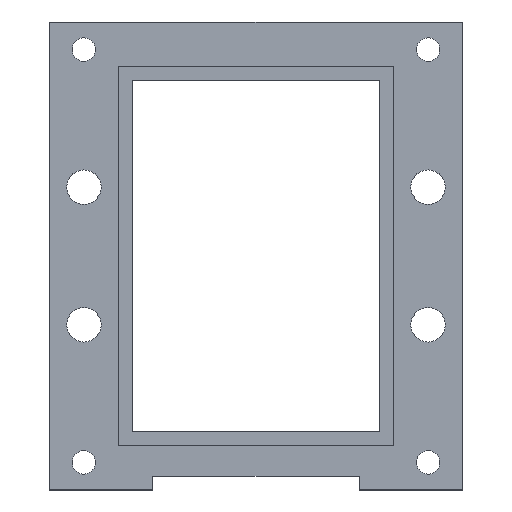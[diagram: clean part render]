
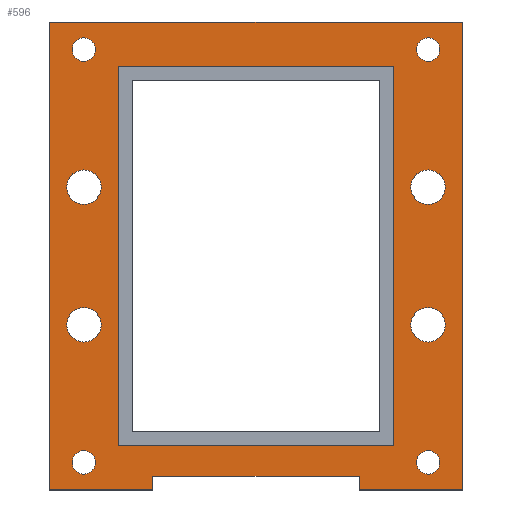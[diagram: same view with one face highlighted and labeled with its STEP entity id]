
A CAD part, top view. The second image highlights one B-rep face of the part: STEP entity #596.
In plain terms, the highlighted planar face has unit normal (0, 0, 1).
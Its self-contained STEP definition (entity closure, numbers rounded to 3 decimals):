
#24=FACE_BOUND('',#116,.T.);
#25=FACE_BOUND('',#117,.T.);
#26=FACE_BOUND('',#118,.T.);
#27=FACE_BOUND('',#119,.T.);
#28=FACE_BOUND('',#120,.T.);
#29=FACE_BOUND('',#121,.T.);
#30=FACE_BOUND('',#122,.T.);
#31=FACE_BOUND('',#123,.T.);
#32=FACE_BOUND('',#124,.T.);
#40=PLANE('',#670);
#75=FACE_OUTER_BOUND('',#115,.T.);
#115=EDGE_LOOP('',(#498,#499,#500,#501,#502,#503,#504,#505));
#116=EDGE_LOOP('',(#506));
#117=EDGE_LOOP('',(#507));
#118=EDGE_LOOP('',(#508));
#119=EDGE_LOOP('',(#509));
#120=EDGE_LOOP('',(#510));
#121=EDGE_LOOP('',(#511));
#122=EDGE_LOOP('',(#512));
#123=EDGE_LOOP('',(#513));
#124=EDGE_LOOP('',(#514,#515,#516,#517));
#152=LINE('',#919,#212);
#173=LINE('',#961,#233);
#174=LINE('',#963,#234);
#175=LINE('',#965,#235);
#176=LINE('',#967,#236);
#177=LINE('',#969,#237);
#178=LINE('',#971,#238);
#179=LINE('',#972,#239);
#180=LINE('',#975,#240);
#181=LINE('',#977,#241);
#182=LINE('',#979,#242);
#183=LINE('',#980,#243);
#212=VECTOR('',#765,1000.);
#233=VECTOR('',#798,1000.);
#234=VECTOR('',#799,1000.);
#235=VECTOR('',#800,1000.);
#236=VECTOR('',#801,1000.);
#237=VECTOR('',#802,1000.);
#238=VECTOR('',#803,1000.);
#239=VECTOR('',#804,1000.);
#240=VECTOR('',#805,1000.);
#241=VECTOR('',#806,1000.);
#242=VECTOR('',#807,1000.);
#243=VECTOR('',#808,1000.);
#258=CIRCLE('',#633,2.5);
#260=CIRCLE('',#636,2.5);
#262=CIRCLE('',#639,2.5);
#264=CIRCLE('',#642,2.5);
#268=CIRCLE('',#648,1.7);
#271=CIRCLE('',#653,1.7);
#274=CIRCLE('',#658,1.7);
#277=CIRCLE('',#663,1.7);
#278=VERTEX_POINT('',#849);
#280=VERTEX_POINT('',#855);
#282=VERTEX_POINT('',#861);
#284=VERTEX_POINT('',#867);
#288=VERTEX_POINT('',#879);
#291=VERTEX_POINT('',#889);
#294=VERTEX_POINT('',#899);
#297=VERTEX_POINT('',#909);
#300=VERTEX_POINT('',#916);
#301=VERTEX_POINT('',#918);
#316=VERTEX_POINT('',#960);
#317=VERTEX_POINT('',#962);
#318=VERTEX_POINT('',#964);
#319=VERTEX_POINT('',#966);
#320=VERTEX_POINT('',#968);
#321=VERTEX_POINT('',#970);
#322=VERTEX_POINT('',#973);
#323=VERTEX_POINT('',#974);
#324=VERTEX_POINT('',#976);
#325=VERTEX_POINT('',#978);
#330=EDGE_CURVE('',#278,#278,#258,.T.);
#333=EDGE_CURVE('',#280,#280,#260,.T.);
#336=EDGE_CURVE('',#282,#282,#262,.T.);
#339=EDGE_CURVE('',#284,#284,#264,.T.);
#345=EDGE_CURVE('',#288,#288,#268,.T.);
#350=EDGE_CURVE('',#291,#291,#271,.T.);
#355=EDGE_CURVE('',#294,#294,#274,.T.);
#360=EDGE_CURVE('',#297,#297,#277,.T.);
#364=EDGE_CURVE('',#301,#300,#152,.T.);
#385=EDGE_CURVE('',#316,#300,#173,.T.);
#386=EDGE_CURVE('',#317,#316,#174,.T.);
#387=EDGE_CURVE('',#318,#317,#175,.T.);
#388=EDGE_CURVE('',#318,#319,#176,.T.);
#389=EDGE_CURVE('',#319,#320,#177,.T.);
#390=EDGE_CURVE('',#320,#321,#178,.T.);
#391=EDGE_CURVE('',#321,#301,#179,.T.);
#392=EDGE_CURVE('',#322,#323,#180,.T.);
#393=EDGE_CURVE('',#324,#322,#181,.T.);
#394=EDGE_CURVE('',#325,#324,#182,.T.);
#395=EDGE_CURVE('',#323,#325,#183,.T.);
#498=ORIENTED_EDGE('',*,*,#385,.F.);
#499=ORIENTED_EDGE('',*,*,#386,.F.);
#500=ORIENTED_EDGE('',*,*,#387,.F.);
#501=ORIENTED_EDGE('',*,*,#388,.T.);
#502=ORIENTED_EDGE('',*,*,#389,.T.);
#503=ORIENTED_EDGE('',*,*,#390,.T.);
#504=ORIENTED_EDGE('',*,*,#391,.T.);
#505=ORIENTED_EDGE('',*,*,#364,.T.);
#506=ORIENTED_EDGE('',*,*,#330,.F.);
#507=ORIENTED_EDGE('',*,*,#333,.F.);
#508=ORIENTED_EDGE('',*,*,#336,.F.);
#509=ORIENTED_EDGE('',*,*,#339,.F.);
#510=ORIENTED_EDGE('',*,*,#345,.F.);
#511=ORIENTED_EDGE('',*,*,#350,.F.);
#512=ORIENTED_EDGE('',*,*,#355,.F.);
#513=ORIENTED_EDGE('',*,*,#360,.F.);
#514=ORIENTED_EDGE('',*,*,#392,.F.);
#515=ORIENTED_EDGE('',*,*,#393,.F.);
#516=ORIENTED_EDGE('',*,*,#394,.F.);
#517=ORIENTED_EDGE('',*,*,#395,.F.);
#596=ADVANCED_FACE('',(#75,#24,#25,#26,#27,#28,#29,#30,#31,#32),#40,.T.);
#633=AXIS2_PLACEMENT_3D('',#850,#687,#688);
#636=AXIS2_PLACEMENT_3D('',#856,#694,#695);
#639=AXIS2_PLACEMENT_3D('',#862,#701,#702);
#642=AXIS2_PLACEMENT_3D('',#868,#708,#709);
#648=AXIS2_PLACEMENT_3D('',#880,#722,#723);
#653=AXIS2_PLACEMENT_3D('',#890,#734,#735);
#658=AXIS2_PLACEMENT_3D('',#900,#746,#747);
#663=AXIS2_PLACEMENT_3D('',#910,#758,#759);
#670=AXIS2_PLACEMENT_3D('',#959,#796,#797);
#687=DIRECTION('center_axis',(0.,0.,1.));
#688=DIRECTION('ref_axis',(1.,0.,0.));
#694=DIRECTION('center_axis',(0.,0.,1.));
#695=DIRECTION('ref_axis',(1.,0.,0.));
#701=DIRECTION('center_axis',(0.,0.,1.));
#702=DIRECTION('ref_axis',(1.,0.,0.));
#708=DIRECTION('center_axis',(0.,0.,1.));
#709=DIRECTION('ref_axis',(1.,0.,0.));
#722=DIRECTION('center_axis',(0.,0.,1.));
#723=DIRECTION('ref_axis',(1.,0.,0.));
#734=DIRECTION('center_axis',(0.,0.,1.));
#735=DIRECTION('ref_axis',(1.,0.,0.));
#746=DIRECTION('center_axis',(0.,0.,1.));
#747=DIRECTION('ref_axis',(1.,0.,0.));
#758=DIRECTION('center_axis',(0.,0.,1.));
#759=DIRECTION('ref_axis',(1.,0.,0.));
#765=DIRECTION('',(1.,0.,0.));
#796=DIRECTION('center_axis',(0.,0.,1.));
#797=DIRECTION('ref_axis',(1.,0.,0.));
#798=DIRECTION('',(0.,-1.,0.));
#799=DIRECTION('',(-1.,0.,0.));
#800=DIRECTION('',(0.,1.,0.));
#801=DIRECTION('',(1.,0.,0.));
#802=DIRECTION('',(0.,1.,0.));
#803=DIRECTION('',(-1.,0.,0.));
#804=DIRECTION('',(0.,-1.,0.));
#805=DIRECTION('',(0.,-1.,0.));
#806=DIRECTION('',(-1.,0.,0.));
#807=DIRECTION('',(0.,1.,0.));
#808=DIRECTION('',(1.,0.,0.));
#849=CARTESIAN_POINT('',(27.5,-10.,2.));
#850=CARTESIAN_POINT('Origin',(25.,-10.,2.));
#855=CARTESIAN_POINT('',(-22.5,-10.,2.));
#856=CARTESIAN_POINT('Origin',(-25.,-10.,2.));
#861=CARTESIAN_POINT('',(-22.5,10.,2.));
#862=CARTESIAN_POINT('Origin',(-25.,10.,2.));
#867=CARTESIAN_POINT('',(27.5,10.,2.));
#868=CARTESIAN_POINT('Origin',(25.,10.,2.));
#879=CARTESIAN_POINT('',(26.7,30.,2.));
#880=CARTESIAN_POINT('Origin',(25.,30.,2.));
#889=CARTESIAN_POINT('',(-23.3,30.,2.));
#890=CARTESIAN_POINT('Origin',(-25.,30.,2.));
#899=CARTESIAN_POINT('',(-23.3,-30.,2.));
#900=CARTESIAN_POINT('Origin',(-25.,-30.,2.));
#909=CARTESIAN_POINT('',(26.7,-30.,2.));
#910=CARTESIAN_POINT('Origin',(25.,-30.,2.));
#916=CARTESIAN_POINT('',(-15.,-34.,2.));
#918=CARTESIAN_POINT('',(-30.,-34.,2.));
#919=CARTESIAN_POINT('',(-30.,-34.,2.));
#959=CARTESIAN_POINT('Origin',(0.,0.,2.));
#960=CARTESIAN_POINT('',(-15.,-32.,2.));
#961=CARTESIAN_POINT('',(-15.,0.,2.));
#962=CARTESIAN_POINT('',(15.,-32.,2.));
#963=CARTESIAN_POINT('',(0.,-32.,2.));
#964=CARTESIAN_POINT('',(15.,-34.,2.));
#965=CARTESIAN_POINT('',(15.,0.,2.));
#966=CARTESIAN_POINT('',(30.,-34.,2.));
#967=CARTESIAN_POINT('',(-30.,-34.,2.));
#968=CARTESIAN_POINT('',(30.,34.,2.));
#969=CARTESIAN_POINT('',(30.,34.,2.));
#970=CARTESIAN_POINT('',(-30.,34.,2.));
#971=CARTESIAN_POINT('',(-30.,34.,2.));
#972=CARTESIAN_POINT('',(-30.,34.,2.));
#973=CARTESIAN_POINT('',(-20.,27.5,2.));
#974=CARTESIAN_POINT('',(-20.,-27.5,2.));
#975=CARTESIAN_POINT('',(-20.,-27.5,2.));
#976=CARTESIAN_POINT('',(20.,27.5,2.));
#977=CARTESIAN_POINT('',(20.,27.5,2.));
#978=CARTESIAN_POINT('',(20.,-27.5,2.));
#979=CARTESIAN_POINT('',(20.,-27.5,2.));
#980=CARTESIAN_POINT('',(20.,-27.5,2.));
